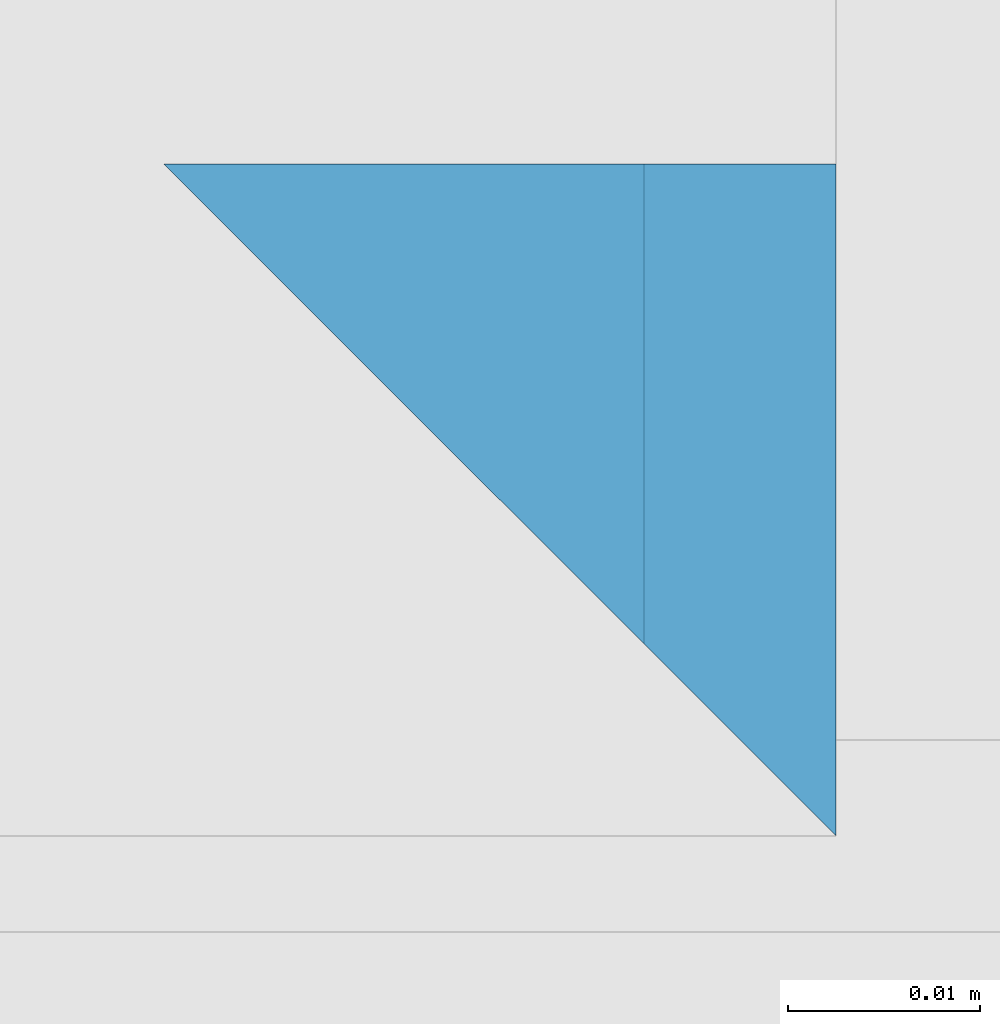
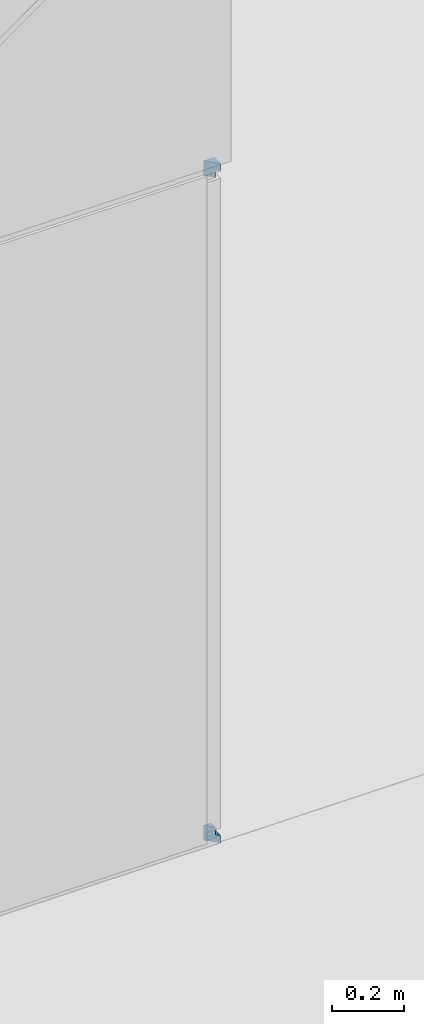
# One storey, part 51 of 139: 2 members, 1 element without a shape of its own.
"""IFC2X3 building model written with IfcOpenShell, lengths in millimetres."""

import ifcopenshell
import ifcopenshell.guid

model = None  # the IFC model being written
_history = None  # IfcOwnerHistory: only IFC2X3 demands one
_inside = {}  # id of a spatial element -> (the spatial element, [elements in it])
_under = {}  # id of a project, library or spatial element -> (it, [spatial elements below it])
_declared = {}  # id of a project -> (the project, [libraries it declares])
_typed = {}  # id of a type object -> (the type object, [elements of that type])
_made_of = {}  # id of a material, layer set ... -> (it, [elements and type objects made of it])


def new_model(schema):
    """Start an empty IFC model of exactly this schema.

    Asked for "IFC4X3", IfcOpenShell would pick the latest addendum, in which some entities
    have other attributes; the version numbers below select the first issue.
    IFC2X3 requires an IfcOwnerHistory on every rooted entity: one is made here for all.
    """
    global model, _history
    if schema == "IFC4X3":
        model = ifcopenshell.file(schema_version=(4, 3, 0, 0))
    else:
        model = ifcopenshell.file(schema=schema)
    _inside.clear()
    _under.clear()
    _declared.clear()
    _typed.clear()
    _made_of.clear()
    _history = None
    if model.schema == "IFC2X3":
        org = make("IfcOrganization", Name="unknown")
        user = make(
            "IfcPersonAndOrganization",
            ThePerson=make("IfcPerson", FamilyName="unknown"),
            TheOrganization=org,
        )
        app = make(
            "IfcApplication",
            ApplicationDeveloper=org,
            Version="unknown",
            ApplicationFullName="unknown",
            ApplicationIdentifier="unknown",
        )
        _history = make(
            "IfcOwnerHistory",
            OwningUser=user,
            OwningApplication=app,
            ChangeAction="ADDED",
            CreationDate=0,
        )
    return model


def make(cls, **values):
    """One entity of the class cls with the attributes given. An attribute that is None is left unset."""
    return model.create_entity(
        cls, **{name: value for name, value in values.items() if value is not None}
    )


def entity(cls, *values):
    """Any entity or typed value of the class cls, its attributes in the order of the schema. None: left unset."""
    e = model.create_entity(cls)
    for i, value in enumerate(values):
        if value is not None:
            e[i] = value
    return e


def rooted(cls, **values):
    """An entity with a GlobalId (a new one), such as an element, a storey or a relation."""
    return make(cls, GlobalId=ifcopenshell.guid.new(), OwnerHistory=_history, **values)


def si_unit(unit_type, name, prefix=None):
    """IfcSIUnit, for example si_unit("LENGTHUNIT", "METRE", prefix="MILLI")."""
    return make("IfcSIUnit", UnitType=unit_type, Prefix=prefix, Name=name)


def converted_unit(unit_type, name, factor, base, dimensions=None, offset=None):
    """IfcConversionBasedUnit, such as the inch: factor (a typed value) times the base unit."""
    return make(
        "IfcConversionBasedUnit"
        if offset is None
        else "IfcConversionBasedUnitWithOffset",
        ConversionOffset=offset,
        Dimensions=None
        if dimensions is None
        else entity("IfcDimensionalExponents", *dimensions),
        UnitType=unit_type,
        Name=name,
        ConversionFactor=make(
            "IfcMeasureWithUnit", ValueComponent=factor, UnitComponent=base
        ),
    )


def derived_unit(unit_type, elements):
    """IfcDerivedUnit: a product of units, each with its exponent."""
    return make(
        "IfcDerivedUnit",
        Elements=[
            make("IfcDerivedUnitElement", Unit=unit, Exponent=power)
            for unit, power in elements
        ],
        UnitType=unit_type,
    )


def money_unit(currency):
    """IfcMonetaryUnit."""
    return make("IfcMonetaryUnit", Currency=currency)


def assignment(units):
    """IfcUnitAssignment: the units of a project."""
    return None if units is None else make("IfcUnitAssignment", Units=units)


def point(xyz):
    """IfcCartesianPoint."""
    return None if xyz is None else make("IfcCartesianPoint", Coordinates=xyz)


def direction(xyz):
    """IfcDirection."""
    return None if xyz is None else make("IfcDirection", DirectionRatios=xyz)


def frame(location, z_axis=None, x_axis=None):
    """IfcAxis2Placement3D, a coordinate frame: its origin and axes. An axis left out is left unset."""
    return make(
        "IfcAxis2Placement3D",
        Location=point(location),
        Axis=direction(z_axis),
        RefDirection=direction(x_axis),
    )


def origin_with_axes():
    """The frame at (0, 0, 0) with the z axis (0, 0, 1) and the x axis (1, 0, 0) written out."""
    return frame((0.0, 0.0, 0.0), z_axis=(0.0, 0.0, 1.0), x_axis=(1.0, 0.0, 0.0))


def place(relative_to, where):
    """IfcLocalPlacement: puts the frame where relative to a parent placement (None: the world)."""
    return make(
        "IfcLocalPlacement", PlacementRelTo=relative_to, RelativePlacement=where
    )


def context(
    kind, dimensions, precision=None, world=None, true_north=None, identifier=None
):
    """IfcGeometricRepresentationContext, for example the 3D "Model" context."""
    return make(
        "IfcGeometricRepresentationContext",
        ContextIdentifier=identifier,
        ContextType=kind,
        CoordinateSpaceDimension=dimensions,
        Precision=precision,
        WorldCoordinateSystem=world,
        TrueNorth=true_north,
    )


def subcontext(parent, identifier, kind, view, scale=None):
    """IfcGeometricRepresentationSubContext, for example "Body" below "Model"."""
    return make(
        "IfcGeometricRepresentationSubContext",
        ContextIdentifier=identifier,
        ContextType=kind,
        ParentContext=parent,
        TargetScale=scale,
        TargetView=view,
    )


def project(units=None, contexts=None):
    """IfcProject with its units and contexts."""
    return rooted(
        "IfcProject",
        Name="project",
        RepresentationContexts=contexts,
        UnitsInContext=assignment(units),
    )


def spatial(cls, under=None, at=None, **own):
    """A site, building, storey or space (cls), placed at a placement, below another one or the project."""
    s = rooted(cls, ObjectPlacement=at, **own)
    if under is not None:
        _under.setdefault(under.id(), (under, []))[1].append(s)
    return s


def faces_of(points, faces, orient=None, outer=None):
    """IfcFace entities. A face is a list of loops; a loop is a list of indices into points, from 0.

    orient and outer hold one flag for each loop. By default every Orientation is true, the
    first loop of a face is its IfcFaceOuterBound and the others are IfcFaceBound.
    """
    made = []
    for i, loops in enumerate(faces):
        bounds = []
        for j, loop in enumerate(loops):
            is_outer = j == 0 if outer is None else outer[i][j]
            bounds.append(
                make(
                    "IfcFaceOuterBound" if is_outer else "IfcFaceBound",
                    Bound=make("IfcPolyLoop", Polygon=[points[k] for k in loop]),
                    Orientation=True if orient is None else orient[i][j],
                )
            )
        made.append(make("IfcFace", Bounds=bounds))
    return made


def faceted_brep(points, faces, orient=None, outer=None, voids=None):
    """IfcFacetedBrep: a solid bounded by flat faces; with voids (closed shells), ...WithVoids."""
    shared = [point(p) for p in points]
    hull = make("IfcClosedShell", CfsFaces=faces_of(shared, faces, orient, outer))
    if voids is None:
        return make("IfcFacetedBrep", Outer=hull)
    return make(
        "IfcFacetedBrepWithVoids",
        Outer=hull,
        Voids=[
            make(cls, CfsFaces=faces_of(shared, fs, o, b)) for cls, fs, o, b in voids
        ],
    )


def shape(context_of_items, identifier, shape_type, items):
    """IfcShapeRepresentation: the items that make up one representation, for example the "Body"."""
    return make(
        "IfcShapeRepresentation",
        ContextOfItems=context_of_items,
        RepresentationIdentifier=identifier,
        RepresentationType=shape_type,
        Items=items,
    )


def material(Name=None, Category=None):
    """IfcMaterial."""
    return make("IfcMaterial", Name=Name, Category=Category)


def made_of(thing, what):
    """Note that an element or type object is made of a material, layer set ...; save() writes the relation."""
    if what is not None:
        _made_of.setdefault(what.id(), (what, []))[1].append(thing)
    return thing


def type_object(cls, material=None, **own):
    """A type object (cls), such as IfcWallType, which elements share."""
    return made_of(rooted(cls, **own), material)


def element(
    cls,
    number,
    at=None,
    inside=None,
    cuts=None,
    type_object=None,
    material=None,
    context=None,
    identifier="Body",
    shape_type=None,
    held_by="IfcProductDefinitionShape",
    body=None,
    shapes=None,
    **own,
):
    """One element of the class cls, such as IfcWall. Its Tag is "e" and its number.

    at: its placement. inside: the storey or other place that contains it. cuts: it is an
    opening in that element (IfcRelVoidsElement). A single representation is given by context,
    identifier, shape_type and body (its items); several are given by shapes. held_by: the class
    of the entity that holds the representations. save() writes the other relations.
    """
    e = rooted(cls, Tag="e%d" % number, ObjectPlacement=at, **own)
    if body is not None:
        shapes = [shape(context, identifier, shape_type, body)]
    if shapes is not None:
        e.Representation = make(held_by, Representations=shapes)
    if inside is not None:
        _inside.setdefault(inside.id(), (inside, []))[1].append(e)
    if cuts is not None:
        rooted(
            "IfcRelVoidsElement", RelatingBuildingElement=cuts, RelatedOpeningElement=e
        )
    if type_object is not None:
        _typed.setdefault(type_object.id(), (type_object, []))[1].append(e)
    return made_of(e, material)


def aggregate(whole, parts):
    """IfcRelAggregates: a whole, such as a stair, and the parts it consists of."""
    return rooted("IfcRelAggregates", RelatingObject=whole, RelatedObjects=parts)


def save(model, path):
    """Write the relations noted so far, then the file.

    IfcRelAggregates (storeys below a building ...), IfcRelContainedInSpatialStructure (elements
    in a storey), IfcRelDefinesByType, IfcRelAssociatesMaterial and IfcRelDeclares: one each for
    every whole, place, type object, material and project.
    """
    for whole, parts in _under.values():
        aggregate(whole, parts)
    for where, things in _inside.values():
        rooted(
            "IfcRelContainedInSpatialStructure",
            RelatedElements=things,
            RelatingStructure=where,
        )
    for kind, things in _typed.values():
        rooted("IfcRelDefinesByType", RelatedObjects=things, RelatingType=kind)
    for what, things in _made_of.values():
        rooted("IfcRelAssociatesMaterial", RelatedObjects=things, RelatingMaterial=what)
    for by, libraries in _declared.values():
        rooted("IfcRelDeclares", RelatingContext=by, RelatedDefinitions=libraries)
    model.write(path)


model = new_model("IFC2X3")

# Units and contexts
model_context = context("Model", 3, precision=0.01, world=origin_with_axes(), true_north=direction((0.0, 1.0)))
body_context = subcontext(model_context, "Body", "Model", "MODEL_VIEW")
ifc_project = project(units=[si_unit("LENGTHUNIT", "METRE", prefix="MILLI"), si_unit("AREAUNIT", "SQUARE_METRE"), si_unit("VOLUMEUNIT", "CUBIC_METRE"), converted_unit("PLANEANGLEUNIT", "DEGREE", entity("IfcPlaneAngleMeasure", 0.0174532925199), si_unit("PLANEANGLEUNIT", "RADIAN"), dimensions=[0, 0, 0, 0, 0, 0, 0]), money_unit("EUR"), converted_unit("TIMEUNIT", "Year", entity("IfcTimeMeasure", 31556926.0), si_unit("TIMEUNIT", "SECOND"), dimensions=[0, 0, 1, 0, 0, 0, 0]), si_unit("MASSUNIT", "GRAM", prefix="KILO"), si_unit("THERMODYNAMICTEMPERATUREUNIT", "DEGREE_CELSIUS"), si_unit("LUMINOUSINTENSITYUNIT", "LUMEN"), si_unit("ENERGYUNIT", "JOULE", prefix="MEGA"), derived_unit("THERMALCONDUCTANCEUNIT", [(si_unit("POWERUNIT", "WATT"), 1), (si_unit("LENGTHUNIT", "METRE"), -1), (si_unit("THERMODYNAMICTEMPERATUREUNIT", "KELVIN"), -1)]), derived_unit("SPECIFICHEATCAPACITYUNIT", [(si_unit("ENERGYUNIT", "JOULE"), 1), (si_unit("MASSUNIT", "GRAM", prefix="KILO"), -1), (si_unit("THERMODYNAMICTEMPERATUREUNIT", "KELVIN"), -1)]), derived_unit("MASSDENSITYUNIT", [(si_unit("MASSUNIT", "GRAM", prefix="KILO"), 1), (si_unit("VOLUMEUNIT", "CUBIC_METRE"), -1)])], contexts=[model_context])

# Site, building, storey
site_placement = place(None, origin_with_axes())
site = spatial("IfcSite", under=ifc_project, at=site_placement, Name="Kolde pst 67a", CompositionType="ELEMENT")
building_placement = place(site_placement, origin_with_axes())
building = spatial("IfcBuilding", under=site, at=building_placement, Name="Riigigümnaasium", CompositionType="ELEMENT")
storey_placement = place(building_placement, frame((0.0, 0.0, 4600.0), z_axis=(0.0, 0.0, 1.0), x_axis=(1.0, 0.0, 0.0)))
storey = spatial("IfcBuildingStorey", under=building, at=storey_placement, Name="2. korrus", CompositionType="ELEMENT", Elevation=4600.0)

# Curtain wall, members
curtain_wall_type = type_object("IfcCurtainWallType", Name="Curtain Wall Type", PredefinedType="NOTDEFINED")
curtain_wall_placement = place(storey_placement, frame((71469.9681221, 10694.9619432, -0.000132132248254), z_axis=(0.0, 0.0, 1.0), x_axis=(1.0, 0.0, 0.0)))
curtain_wall = element("IfcCurtainWall", 1, at=curtain_wall_placement, inside=storey, type_object=curtain_wall_type, Name="KLAASSEIN")
ifc_material = material(Name="_GENEERILINE MATERJAL")
member_type = type_object("IfcMemberType", Name="Boundary Frame 50 x 100", PredefinedType="MEMBER")
member_1_placement = place(curtain_wall_placement, frame((2279.75189028, 3.82592446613e-06, 0.0), z_axis=(0.0, 1.0, 0.0), x_axis=(0.0, 0.0, 1.0)))
member_1 = element("IfcMember", 2, at=member_1_placement, type_object=member_type, material=ifc_material, Name="RF RAAM SERV-188", ObjectType="MEMBER", context=body_context, shape_type="Brep", body=[
    faceted_brep([(50.0, -10.0, 9.99999998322), (50.0, -10.0, 35.0000000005), (50.0, -35.0000000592, 35.0000000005), (25.0, -10.0, 35.0000000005), (25.0, -10.0, 9.99999998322), (25.0, 0.0, 35.0000000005), (0.0, 0.0, 35.0000000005), (0.0, -35.0000000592, 35.0000000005), (0.0, 0.0, 0.0), (25.0, 0.0, 0.0)], [[[0, 1, 2]], [[3, 1, 0, 4]], [[3, 5, 6, 7, 2, 1]], [[4, 0, 2, 7, 8, 9]], [[9, 5, 3, 4]], [[5, 9, 8, 6]], [[7, 6, 8]]]),
])
member_2_placement = place(curtain_wall_placement, frame((2279.75189028, 3.82592446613e-06, 2300.00014524), z_axis=(0.0, 1.0, 0.0), x_axis=(0.0, 0.0, 1.0)))
member_2 = element("IfcMember", 3, at=member_2_placement, type_object=member_type, material=ifc_material, Name="RF RAAM SERV-198", ObjectType="MEMBER", context=body_context, shape_type="Brep", body=[
    faceted_brep([(-50.0, -10.0, 9.99999998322), (-50.0, -35.0000000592, 35.0000000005), (-50.0, -10.0, 35.0000000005), (-25.0, -10.0, 9.99999998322), (-25.0, 0.0, 0.0), (0.0, 0.0, 0.0), (0.0, -35.0000000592, 35.0000000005), (-25.0, -10.0, 35.0000000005), (0.0, 0.0, 35.0000000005), (-25.0, 0.0, 35.0000000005)], [[[0, 1, 2]], [[3, 4, 5, 6, 1, 0]], [[7, 2, 1, 6, 8, 9]], [[7, 3, 0, 2]], [[4, 3, 7, 9]], [[9, 8, 5, 4]], [[6, 5, 8]]]),
])
aggregate(curtain_wall, [member_1, member_2])

save(model, "model.ifc")
